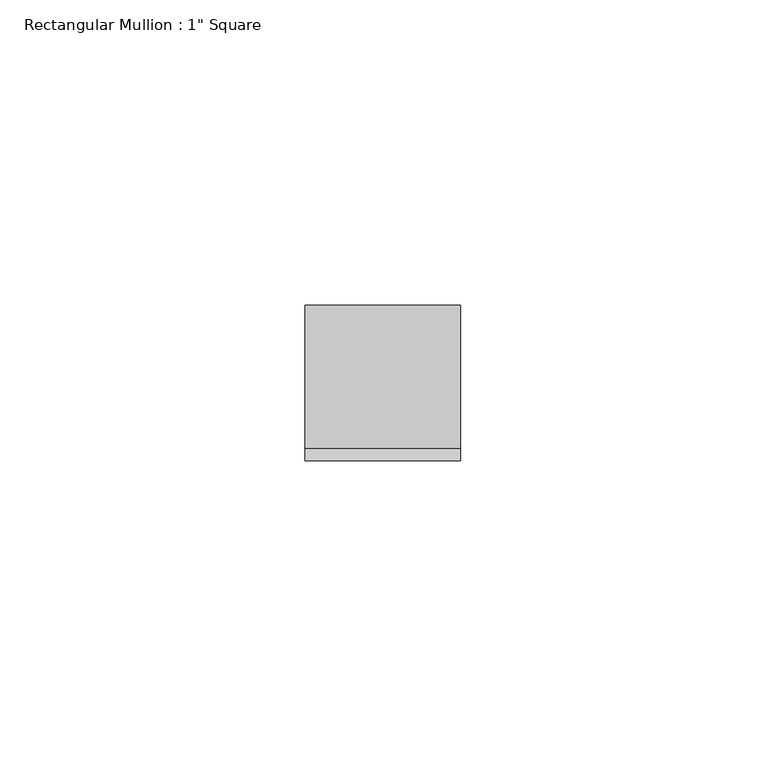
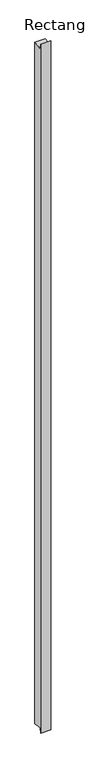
"""IFC4 building model written with IfcOpenShell, lengths in millimetres: member geometry."""

from ifc_helpers import new_model, si_unit, frame, origin, place, context, project, spatial, polyline, outline, extrude, source, transform, mapped, element, save


def member_bf0d189b(model_context):
    return source(origin(), model_context, "Body", "SweptSolid", [
        extrude(outline(polyline([(-12.7, 11.7414453), (-10.6498724, -1.7623724), (12.7, 1.782567), (12.7, -1806.382567), (-10.6498724, -1802.8376276), (-12.7, -1816.3414453), (-12.7, 11.7414453)])), frame((-25.4, 0.0, 0.0), z_axis=(1.0, 0.0, 0.0), x_axis=(0.0, 1.0, 0.0)), (0.0, 0.0, 1.0), 25.4),
    ])


if __name__ == "__main__":
    model = new_model("IFC4")
    model_context = context("Model", 3, world=origin())
    ifc_project = project(units=[si_unit("LENGTHUNIT", "METRE", prefix="MILLI")], contexts=[model_context])
    site = spatial("IfcSite", under=ifc_project)
    building = spatial("IfcBuilding", under=site)
    placement = place(None, origin())
    member_shape = member_bf0d189b(model_context)
    element("IfcMember", 1, ObjectType="Rectangular Mullion : 1\" Square", at=placement, inside=building, context=model_context, shape_type="MappedRepresentation", body=[
        mapped(member_shape, transform((0.0, 0.0, 0.0), x_axis=(1.0, 0.0, 0.0), y_axis=(0.0, 1.0, 0.0), z_axis=(0.0, 0.0, 1.0))),
    ])
    save(model, "model.ifc")
